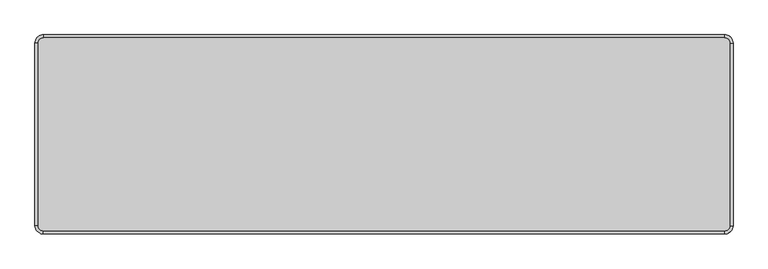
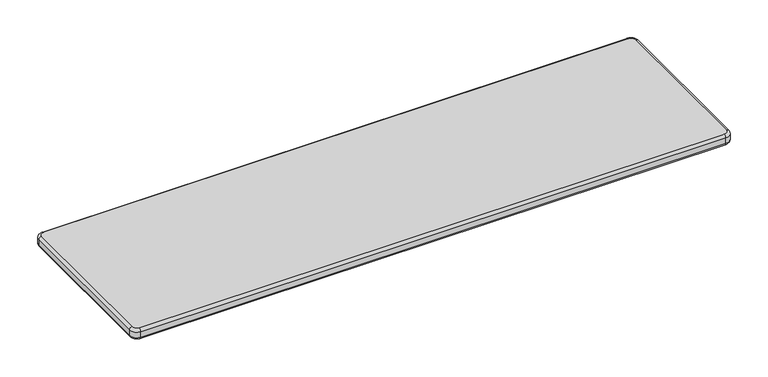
"""IFC4 building model written with IfcOpenShell, lengths in millimetres: furniture geometry, SSL-Childcraft_Outdoor-Bench : 2161359."""

from ifc_helpers import new_model, si_unit, point, frame, origin, place, context, project, spatial, circle_curve, ellipse_curve, trimmed, source, transform, mapped, element, save
from ifc_brep_helpers import plane_surface, cylinder_surface, revolved_surface, advanced_brep


def furniture_44d3f149(model_context):
    return source(origin(), model_context, "Body", "AdvancedBrep", [
        advanced_brep(
        [(1066.8, -12.7, 402.0687617), (1054.1, 0.0, 402.0687617), (1054.1, -4.3312383, 406.4), (1062.4687617, -12.7, 406.4), (1066.8, -12.7, 391.715625), (1054.1, 0.0, 391.715625), (1062.434375, -12.7, 387.35), (1054.1, -4.365625, 387.35), (1062.4687617, -292.1, 406.4), (1066.8, -292.1, 402.0687617), (1066.8, -292.1, 391.715625), (1062.434375, -292.1, 387.35), (1054.1, -300.4687617, 406.4), (1054.1, -304.8, 402.0687617), (1054.1, -304.8, 391.715625), (1054.1, -300.434375, 387.35), (12.7, -300.4687617, 406.4), (12.7, -304.8, 402.0687617), (12.7, -304.8, 391.715625), (12.7, -300.434375, 387.35), (4.3312383, -292.1, 406.4), (0.0, -292.1, 402.0687617), (0.0, -292.1, 391.715625), (4.365625, -292.1, 387.35), (4.3312383, -12.7, 406.4), (0.0, -12.7, 402.0687617), (0.0, -12.7, 391.715625), (4.365625, -12.7, 387.35), (12.7, -4.3312383, 406.4), (12.7, 0.0, 402.0687617), (12.7, 0.0, 391.715625), (12.7, -4.365625, 387.35)],
        [
            (0, 1, circle_curve(frame((1054.1, -12.7, 402.0687617), z_axis=(0.0, 0.0, 1.0), x_axis=(0.0, 1.0, 0.0)), 12.7)),
            (1, 2, circle_curve(frame((1054.1, -4.3312383, 402.0687617), z_axis=(1.0, 0.0, 0.0), x_axis=(0.0, 1.0, 0.0)), 4.3312383)),
            (2, 3, circle_curve(frame((1054.1, -12.7, 406.4), z_axis=(0.0, 0.0, -1.0), x_axis=(0.0, 1.0, 0.0)), 8.3687617)),
            (3, 0, circle_curve(frame((1062.4687617, -12.7, 402.0687617), z_axis=(0.0, 1.0, 0.0), x_axis=(1.0, 0.0, 0.0)), 4.3312383)),
            (0, 4),
            (4, 5, circle_curve(frame((1054.1, -12.7, 391.715625), z_axis=(0.0, 0.0, 1.0), x_axis=(0.0, 1.0, 0.0)), 12.7)),
            (5, 1),
            (4, 6, circle_curve(frame((1062.434375, -12.7, 391.715625), z_axis=(0.0, 1.0, 0.0), x_axis=(1.0, 0.0, 0.0)), 4.365625)),
            (6, 7, circle_curve(frame((1054.1, -12.7, 387.35), z_axis=(0.0, 0.0, 1.0), x_axis=(0.0, 1.0, 0.0)), 8.334375)),
            (7, 5, circle_curve(frame((1054.1, -4.365625, 391.715625), z_axis=(1.0, 0.0, 0.0), x_axis=(0.0, 1.0, 0.0)), 4.365625)),
            (3, 8),
            (8, 9, circle_curve(frame((1062.4687617, -292.1, 402.0687617), z_axis=(0.0, 1.0, 0.0), x_axis=(1.0, 0.0, 0.0)), 4.3312383)),
            (9, 0),
            (9, 10),
            (10, 4),
            (10, 11, circle_curve(frame((1062.434375, -292.1, 391.715625), z_axis=(0.0, 1.0, 0.0), x_axis=(1.0, 0.0, 0.0)), 4.365625)),
            (11, 6),
            (8, 12, circle_curve(frame((1054.1, -292.1, 406.4), z_axis=(0.0, 0.0, -1.0), x_axis=(1.0, 0.0, 0.0)), 8.3687617)),
            (12, 13, circle_curve(frame((1054.1, -300.4687617, 402.0687617), z_axis=(1.0, 0.0, 0.0), x_axis=(0.0, -1.0, 0.0)), 4.3312383)),
            (13, 9, circle_curve(frame((1054.1, -292.1, 402.0687617), z_axis=(0.0, 0.0, 1.0), x_axis=(1.0, 0.0, 0.0)), 12.7)),
            (13, 14),
            (14, 10, circle_curve(frame((1054.1, -292.1, 391.715625), z_axis=(0.0, 0.0, 1.0), x_axis=(1.0, 0.0, 0.0)), 12.7)),
            (14, 15, circle_curve(frame((1054.1, -300.434375, 391.715625), z_axis=(1.0, 0.0, 0.0), x_axis=(0.0, -1.0, 0.0)), 4.365625)),
            (15, 11, circle_curve(frame((1054.1, -292.1, 387.35), z_axis=(0.0, 0.0, 1.0), x_axis=(1.0, 0.0, 0.0)), 8.334375)),
            (12, 16),
            (16, 17, circle_curve(frame((12.7, -300.4687617, 402.0687617), z_axis=(1.0, 0.0, 0.0), x_axis=(0.0, -1.0, 0.0)), 4.3312383)),
            (17, 13),
            (17, 18),
            (18, 14),
            (18, 19, circle_curve(frame((12.7, -300.434375, 391.715625), z_axis=(1.0, 0.0, 0.0), x_axis=(0.0, -1.0, 0.0)), 4.365625)),
            (19, 15),
            (16, 20, circle_curve(frame((12.7, -292.1, 406.4), z_axis=(0.0, 0.0, -1.0), x_axis=(0.0, -1.0, 0.0)), 8.3687617)),
            (20, 21, circle_curve(frame((4.3312383, -292.1, 402.0687617), z_axis=(0.0, -1.0, 0.0), x_axis=(-1.0, 0.0, 0.0)), 4.3312383)),
            (21, 17, circle_curve(frame((12.7, -292.1, 402.0687617), z_axis=(0.0, 0.0, 1.0), x_axis=(0.0, -1.0, 0.0)), 12.7)),
            (21, 22),
            (22, 18, circle_curve(frame((12.7, -292.1, 391.715625), z_axis=(0.0, 0.0, 1.0), x_axis=(0.0, -1.0, 0.0)), 12.7)),
            (22, 23, circle_curve(frame((4.365625, -292.1, 391.715625), z_axis=(0.0, -1.0, 0.0), x_axis=(-1.0, 0.0, 0.0)), 4.365625)),
            (23, 19, circle_curve(frame((12.7, -292.1, 387.35), z_axis=(0.0, 0.0, 1.0), x_axis=(0.0, -1.0, 0.0)), 8.334375)),
            (20, 24),
            (24, 25, circle_curve(frame((4.3312383, -12.7, 402.0687617), z_axis=(0.0, -1.0, 0.0), x_axis=(-1.0, 0.0, 0.0)), 4.3312383)),
            (25, 21),
            (25, 26),
            (26, 22),
            (26, 27, circle_curve(frame((4.365625, -12.7, 391.715625), z_axis=(0.0, -1.0, 0.0), x_axis=(-1.0, 0.0, 0.0)), 4.365625)),
            (27, 23),
            (24, 28, circle_curve(frame((12.7, -12.7, 406.4), z_axis=(0.0, 0.0, -1.0), x_axis=(-1.0, 0.0, 0.0)), 8.3687617)),
            (28, 29, circle_curve(frame((12.7, -4.3312383, 402.0687617), z_axis=(-1.0, 0.0, 0.0), x_axis=(0.0, 1.0, 0.0)), 4.3312383)),
            (29, 25, circle_curve(frame((12.7, -12.7, 402.0687617), z_axis=(0.0, 0.0, 1.0), x_axis=(-1.0, 0.0, 0.0)), 12.7)),
            (29, 30),
            (30, 26, circle_curve(frame((12.7, -12.7, 391.715625), z_axis=(0.0, 0.0, 1.0), x_axis=(-1.0, 0.0, 0.0)), 12.7)),
            (30, 31, circle_curve(frame((12.7, -4.365625, 391.715625), z_axis=(-1.0, 0.0, 0.0), x_axis=(0.0, 1.0, 0.0)), 4.365625)),
            (31, 27, circle_curve(frame((12.7, -12.7, 387.35), z_axis=(0.0, 0.0, 1.0), x_axis=(-1.0, 0.0, 0.0)), 8.334375)),
            (2, 28),
            (1, 29),
            (5, 30),
            (7, 31),
        ],
        [
            revolved_surface(trimmed(ellipse_curve(frame((1054.1, -4.3312383, 402.0687617), z_axis=(-1.0, 0.0, 0.0), x_axis=(0.0, 1.0, 0.0)), 4.3312383, 4.3312383), [point((1054.1, -4.3312383, 406.4))], [point((1054.1, 0.0, 402.0687617))], True, "CARTESIAN"), (1054.1, -12.7, 0.0), (0.0, 0.0, -1.0)),
            cylinder_surface(frame((1054.1, -12.7, 0.0), z_axis=(0.0, 0.0, -1.0), x_axis=(0.0, 1.0, 0.0)), 12.7),
            revolved_surface(trimmed(ellipse_curve(frame((1054.1, -4.365625, 391.715625), z_axis=(-1.0, 0.0, 0.0), x_axis=(0.0, 1.0, 0.0)), 4.365625, 4.365625), [point((1054.1, 0.0, 391.715625))], [point((1054.1, -4.365625, 387.35))], True, "CARTESIAN"), (1054.1, -12.7, 0.0), (0.0, 0.0, -1.0)),
            cylinder_surface(frame((1062.4687617, -12.7, 402.0687617), z_axis=(0.0, 1.0, 0.0), x_axis=(1.0, 0.0, 0.0)), 4.3312383),
            plane_surface(frame((1066.8, -12.7, 402.0687617), z_axis=(1.0, 0.0, 0.0), x_axis=(0.0, -1.0, 0.0))),
            cylinder_surface(frame((1062.434375, -12.7, 391.715625), z_axis=(0.0, 1.0, 0.0), x_axis=(1.0, 0.0, 0.0)), 4.365625),
            revolved_surface(trimmed(ellipse_curve(frame((1062.4687617, -292.1, 402.0687617), z_axis=(0.0, 1.0, 0.0), x_axis=(1.0, 0.0, 0.0)), 4.3312383, 4.3312383), [point((1062.4687617, -292.1, 406.4))], [point((1066.8, -292.1, 402.0687617))], True, "CARTESIAN"), (1054.1, -292.1, 0.0), (0.0, 0.0, -1.0)),
            cylinder_surface(frame((1054.1, -292.1, 0.0), z_axis=(0.0, 0.0, -1.0), x_axis=(1.0, 0.0, 0.0)), 12.7),
            revolved_surface(trimmed(ellipse_curve(frame((1062.434375, -292.1, 391.715625), z_axis=(0.0, 1.0, 0.0), x_axis=(1.0, 0.0, 0.0)), 4.365625, 4.365625), [point((1066.8, -292.1, 391.715625))], [point((1062.434375, -292.1, 387.35))], True, "CARTESIAN"), (1054.1, -292.1, 0.0), (0.0, 0.0, -1.0)),
            cylinder_surface(frame((1054.1, -300.4687617, 402.0687617), z_axis=(1.0, 0.0, 0.0), x_axis=(0.0, -1.0, 0.0)), 4.3312383),
            plane_surface(frame((1054.1, -304.8, 402.0687617), z_axis=(0.0, -1.0, 0.0), x_axis=(-1.0, 0.0, 0.0))),
            cylinder_surface(frame((1054.1, -300.434375, 391.715625), z_axis=(1.0, 0.0, 0.0), x_axis=(0.0, -1.0, 0.0)), 4.365625),
            revolved_surface(trimmed(ellipse_curve(frame((12.7, -300.4687617, 402.0687617), z_axis=(1.0, 0.0, 0.0), x_axis=(0.0, -1.0, 0.0)), 4.3312383, 4.3312383), [point((12.7, -300.4687617, 406.4))], [point((12.7, -304.8, 402.0687617))], True, "CARTESIAN"), (12.7, -292.1, 0.0), (0.0, 0.0, -1.0)),
            cylinder_surface(frame((12.7, -292.1, 0.0), z_axis=(0.0, 0.0, -1.0), x_axis=(0.0, -1.0, 0.0)), 12.7),
            revolved_surface(trimmed(ellipse_curve(frame((12.7, -300.434375, 391.715625), z_axis=(1.0, 0.0, 0.0), x_axis=(0.0, -1.0, 0.0)), 4.365625, 4.365625), [point((12.7, -304.8, 391.715625))], [point((12.7, -300.434375, 387.35))], True, "CARTESIAN"), (12.7, -292.1, 0.0), (0.0, 0.0, -1.0)),
            cylinder_surface(frame((4.3312383, -292.1, 402.0687617), z_axis=(0.0, -1.0, 0.0), x_axis=(-1.0, 0.0, 0.0)), 4.3312383),
            plane_surface(frame((0.0, -292.1, 402.0687617), z_axis=(-1.0, 0.0, 0.0), x_axis=(0.0, 1.0, 0.0))),
            cylinder_surface(frame((4.365625, -292.1, 391.715625), z_axis=(0.0, -1.0, 0.0), x_axis=(-1.0, 0.0, 0.0)), 4.365625),
            revolved_surface(trimmed(ellipse_curve(frame((4.3312383, -12.7, 402.0687617), z_axis=(0.0, -1.0, 0.0), x_axis=(-1.0, 0.0, 0.0)), 4.3312383, 4.3312383), [point((4.3312383, -12.7, 406.4))], [point((0.0, -12.7, 402.0687617))], True, "CARTESIAN"), (12.7, -12.7, 0.0), (0.0, 0.0, -1.0)),
            cylinder_surface(frame((12.7, -12.7, 0.0), z_axis=(0.0, 0.0, -1.0), x_axis=(-1.0, 0.0, 0.0)), 12.7),
            revolved_surface(trimmed(ellipse_curve(frame((4.365625, -12.7, 391.715625), z_axis=(0.0, -1.0, 0.0), x_axis=(-1.0, 0.0, 0.0)), 4.365625, 4.365625), [point((0.0, -12.7, 391.715625))], [point((4.365625, -12.7, 387.35))], True, "CARTESIAN"), (12.7, -12.7, 0.0), (0.0, 0.0, -1.0)),
            plane_surface(frame((12.7, -5.55625, 406.4), z_axis=(0.0, 0.0, 1.0), x_axis=(1.0, 0.0, 0.0))),
            cylinder_surface(frame((12.7, -4.3312383, 402.0687617), z_axis=(-1.0, 0.0, 0.0), x_axis=(0.0, 1.0, 0.0)), 4.3312383),
            plane_surface(frame((12.7, 0.0, 402.0687617), z_axis=(0.0, 1.0, 0.0), x_axis=(1.0, 0.0, 0.0))),
            cylinder_surface(frame((12.7, -4.365625, 391.715625), z_axis=(-1.0, 0.0, 0.0), x_axis=(0.0, 1.0, 0.0)), 4.365625),
            plane_surface(frame((12.7, -4.365625, 387.35), z_axis=(0.0, 0.0, -1.0), x_axis=(1.0, 0.0, 0.0))),
        ],
        [
            (0, [[1, 2, 3, 4]]),
            (1, [[-1, 5, 6, 7]]),
            (2, [[-6, 8, 9, 10]]),
            (3, [[-4, 11, 12, 13]]),
            (4, [[-5, -13, 14, 15]]),
            (5, [[-8, -15, 16, 17]]),
            (6, [[-12, 18, 19, 20]]),
            (7, [[-14, -20, 21, 22]]),
            (8, [[-16, -22, 23, 24]]),
            (9, [[-19, 25, 26, 27]]),
            (10, [[-21, -27, 28, 29]]),
            (11, [[-23, -29, 30, 31]]),
            (12, [[-26, 32, 33, 34]]),
            (13, [[-28, -34, 35, 36]]),
            (14, [[-30, -36, 37, 38]]),
            (15, [[-33, 39, 40, 41]]),
            (16, [[-35, -41, 42, 43]]),
            (17, [[-37, -43, 44, 45]]),
            (18, [[-40, 46, 47, 48]]),
            (19, [[-42, -48, 49, 50]]),
            (20, [[-44, -50, 51, 52]]),
            (21, [[-3, 53, -46, -39, -32, -25, -18, -11]]),
            (22, [[-2, 54, -47, -53]]),
            (23, [[-7, 55, -49, -54]]),
            (24, [[-10, 56, -51, -55]]),
            (25, [[-9, -17, -24, -31, -38, -45, -52, -56]]),
        ],
    ),
    ])


if __name__ == "__main__":
    model = new_model("IFC4")
    model_context = context("Model", 3, world=origin())
    ifc_project = project(units=[si_unit("LENGTHUNIT", "METRE", prefix="MILLI")], contexts=[model_context])
    site = spatial("IfcSite", under=ifc_project)
    building = spatial("IfcBuilding", under=site)
    placement = place(None, origin())
    furniture_shape = furniture_44d3f149(model_context)
    element("IfcFurniture", 1, ObjectType="SSL-Childcraft_Outdoor-Bench : 2161359", at=placement, inside=building, context=model_context, shape_type="MappedRepresentation", body=[
        mapped(furniture_shape, transform((0.0, 0.0, 0.0), x_axis=(1.0, 0.0, 0.0), y_axis=(0.0, 1.0, 0.0), z_axis=(0.0, 0.0, 1.0))),
    ])
    save(model, "model.ifc")
